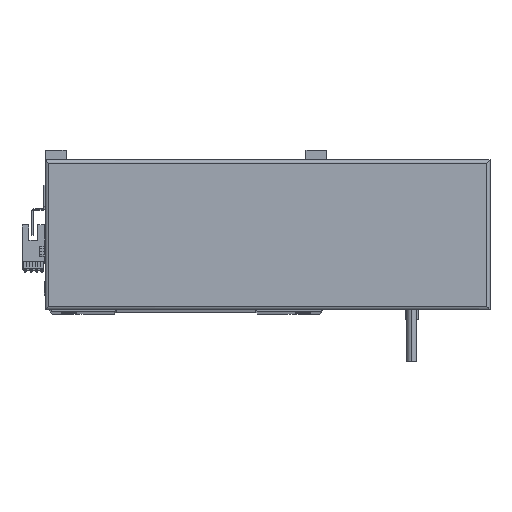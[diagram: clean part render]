
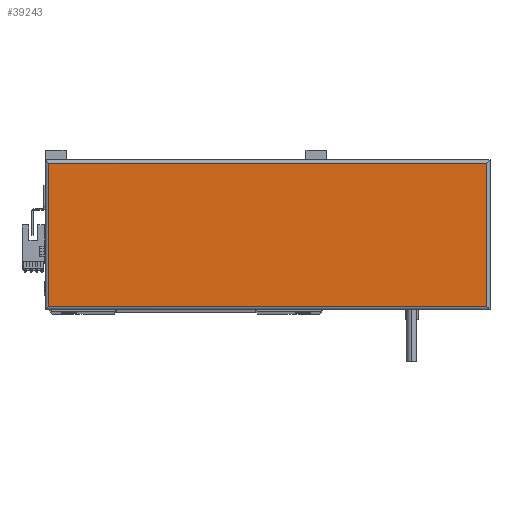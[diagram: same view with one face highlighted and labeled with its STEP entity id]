
A CAD part, top view. The second image highlights one B-rep face of the part: STEP entity #39243.
In plain terms, the highlighted planar face has unit normal (0, 0, 1).
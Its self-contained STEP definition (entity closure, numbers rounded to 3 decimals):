
#1084 = DIRECTION ( 'NONE',  ( 0., 0., 1. ) ) ;
#1521 = CARTESIAN_POINT ( 'NONE',  ( 265., 88., 44.8 ) ) ;
#1619 = EDGE_CURVE ( 'NONE', #30694, #22452, #41591, .T. ) ;
#3365 = LINE ( 'NONE', #4197, #36545 ) ;
#4197 = CARTESIAN_POINT ( 'NONE',  ( 265., 90., 44.8 ) ) ;
#8273 = EDGE_CURVE ( 'NONE', #44477, #9371, #3365, .T. ) ;
#8767 = DIRECTION ( 'NONE',  ( 1., 0., 0. ) ) ;
#8980 = VECTOR ( 'NONE', #44754, 1000. ) ;
#9371 = VERTEX_POINT ( 'NONE', #1521 ) ;
#11054 = ORIENTED_EDGE ( 'NONE', *, *, #12198, .T. ) ;
#12198 = EDGE_CURVE ( 'NONE', #9371, #30694, #26423, .T. ) ;
#12943 = CARTESIAN_POINT ( 'NONE',  ( 265., 2., 44.8 ) ) ;
#13602 = VECTOR ( 'NONE', #31172, 1000. ) ;
#15879 = LINE ( 'NONE', #18687, #8980 ) ;
#18422 = ORIENTED_EDGE ( 'NONE', *, *, #8273, .T. ) ;
#18687 = CARTESIAN_POINT ( 'NONE',  ( 267., 2., 44.8 ) ) ;
#22452 = VERTEX_POINT ( 'NONE', #24242 ) ;
#22610 = EDGE_CURVE ( 'NONE', #22452, #44477, #15879, .T. ) ;
#24242 = CARTESIAN_POINT ( 'NONE',  ( 2., 2., 44.8 ) ) ;
#25691 = ORIENTED_EDGE ( 'NONE', *, *, #22610, .T. ) ;
#26423 = LINE ( 'NONE', #38488, #13602 ) ;
#26951 = CARTESIAN_POINT ( 'NONE',  ( 133.5, 45., 44.8 ) ) ;
#30694 = VERTEX_POINT ( 'NONE', #33651 ) ;
#31172 = DIRECTION ( 'NONE',  ( -1., 0., 0. ) ) ;
#31755 = CARTESIAN_POINT ( 'NONE',  ( 2., 0., 44.8 ) ) ;
#31947 = FACE_OUTER_BOUND ( 'NONE', #33369, .T. ) ;
#32072 = DIRECTION ( 'NONE',  ( 0., -1., 0. ) ) ;
#33369 = EDGE_LOOP ( 'NONE', ( #18422, #11054, #36868, #25691 ) ) ;
#33651 = CARTESIAN_POINT ( 'NONE',  ( 2., 88., 44.8 ) ) ;
#34791 = AXIS2_PLACEMENT_3D ( 'NONE', #26951, #1084, #8767 ) ;
#36545 = VECTOR ( 'NONE', #45172, 1000. ) ;
#36868 = ORIENTED_EDGE ( 'NONE', *, *, #1619, .T. ) ;
#38488 = CARTESIAN_POINT ( 'NONE',  ( 0., 88., 44.8 ) ) ;
#39243 = ADVANCED_FACE ( 'NONE', ( #31947 ), #41944, .T. ) ;
#41591 = LINE ( 'NONE', #31755, #45039 ) ;
#41944 = PLANE ( 'NONE',  #34791 ) ;
#44477 = VERTEX_POINT ( 'NONE', #12943 ) ;
#44754 = DIRECTION ( 'NONE',  ( 1., 0., 0. ) ) ;
#45039 = VECTOR ( 'NONE', #32072, 1000. ) ;
#45172 = DIRECTION ( 'NONE',  ( 0., 1., 0. ) ) ;
